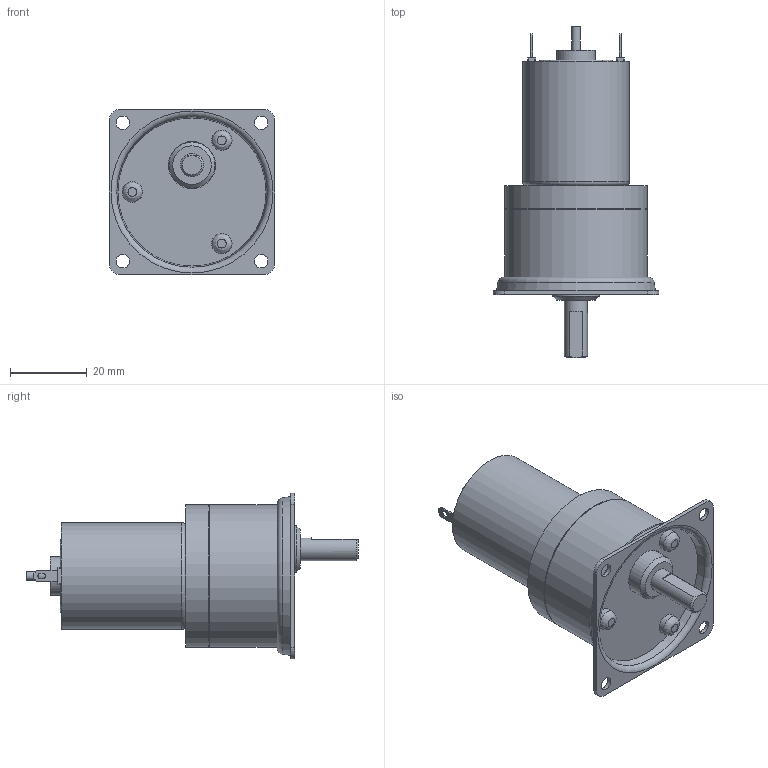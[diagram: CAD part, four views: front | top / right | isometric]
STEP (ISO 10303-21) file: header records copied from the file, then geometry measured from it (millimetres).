
FILE_DESCRIPTION((''),'2;1');
FILE_NAME('C:\Documents and Settings\SSEGAWA\デスクトップ\TP-2732D-PHM-2.STP','2013-07-01T13:53:54',('SSEGAWA'),(''),'Autodesk Inventor 2010','Autodesk Inventor 2010','');
FILE_SCHEMA(('CONFIG_CONTROL_DESIGN'));
Length unit declared in the file: millimetre
Products named in the file (5): tp_2732def_phm_2; phm_2; hm_2; □43; tp_2732d,e,f
Assembly tree (4 placements, depth 3):
  tp_2732def_phm_2
    phm_2
      hm_2
      □43
    tp_2732d,e,f
Bounding box: 43 x 86.3 x 43 mm (x, y, z)
Volume: 48383.4 mm3; surface area: 14562.1 mm2
Topology: 3 solids, 3 shells, 177 faces, 391 edges, 251 vertices
Faces by surface type: plane 96, cylinder 43, bspline 28, torus 6, cone 4
Full cylindrical faces by diameter (mm): 2 x2, 2.305 x2, 2.5 x5, 5.3 x3, 6 x1, 9 x2, 10 x2, 12 x1, 12.2 x1, 19 x1, 26.7 x1, 27.7 x1, 36.6 x1, 37 x2
Entity records: 4939 total; most frequent: CARTESIAN_POINT 1198, DIRECTION 765, ORIENTED_EDGE 636, EDGE_CURVE 318, AXIS2_PLACEMENT_3D 291, EDGE_LOOP 275, VERTEX_POINT 231, VECTOR 183
